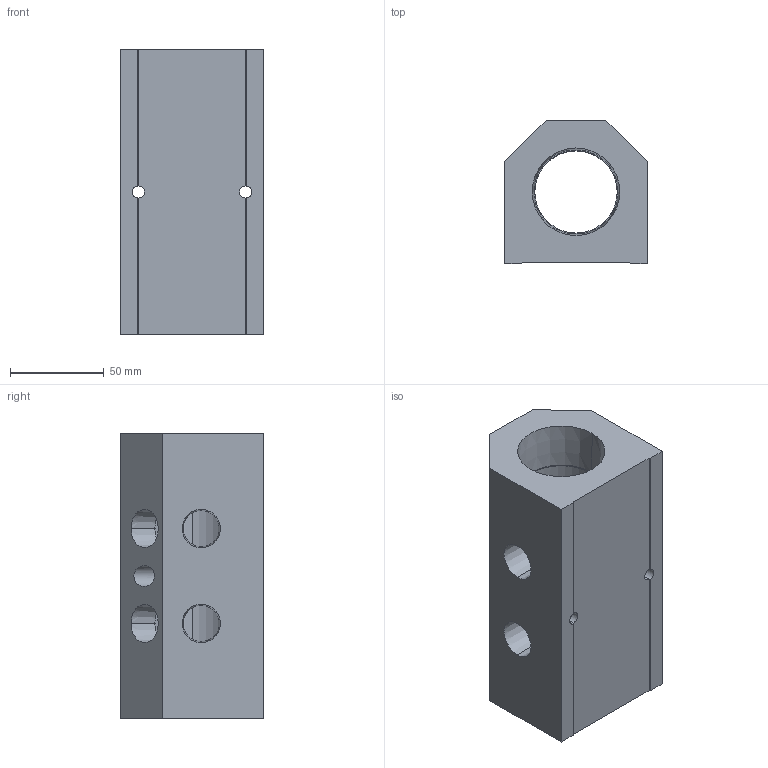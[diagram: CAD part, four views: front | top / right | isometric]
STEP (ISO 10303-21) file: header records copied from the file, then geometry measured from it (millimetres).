
FILE_DESCRIPTION (( 'STEP AP214' ), '1' );
FILE_NAME ('ALM2ABC-N8N24-152B.step', '2022-02-07T09:29:02', ( '' ), ( '' ), 'SwSTEP 2.0', 'SolidWorks 2020', '' );
FILE_SCHEMA (( 'AUTOMOTIVE_DESIGN' ));
Length unit declared in the file: millimetre
Products named in the file (1): ALM2ABC-N8N24-152B
Bounding box: 76.2 x 76.2 x 152 mm (x, y, z)
Volume: 528540.1 mm3; surface area: 76544 mm2
Topology: 1 solids, 1 shells, 315 faces, 848 edges, 564 vertices
Faces by surface type: plane 214, bspline 75, cone 16, cylinder 10
Entity records: 18005 total; most frequent: CARTESIAN_POINT 7535, ORIENTED_EDGE 1696, DIRECTION 1180, EDGE_CURVE 848, VECTOR 626, LINE 626, VERTEX_POINT 564, EDGE_LOOP 362
